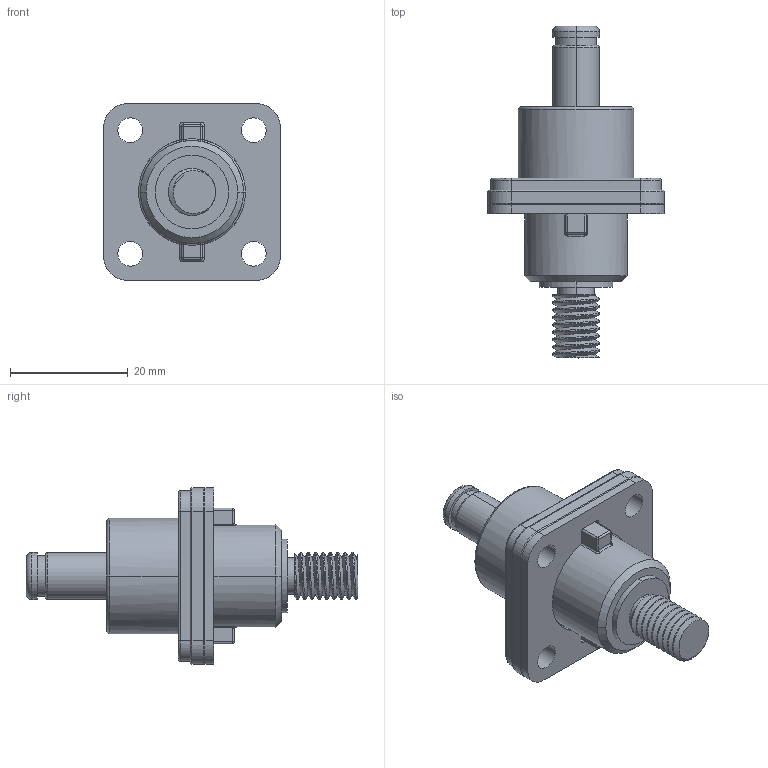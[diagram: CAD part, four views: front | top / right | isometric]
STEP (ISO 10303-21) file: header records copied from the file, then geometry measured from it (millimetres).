
FILE_DESCRIPTION (( 'STEP AP214' ), '1' );
FILE_NAME ('RL9080-10X-F1.STEP', '2017-01-12T01:23:43', ( '' ), ( '' ), 'SwSTEP 2.0', 'SolidWorks 2014', '' );
FILE_SCHEMA (( 'AUTOMOTIVE_DESIGN' ));
Length unit declared in the file: millimetre
Products named in the file (1): RL9080-10X-F1
Bounding box: 30 x 56.4 x 30 mm (x, y, z)
Volume: 10512.1 mm3; surface area: 6296 mm2
Topology: 1 solids, 1 shells, 363 faces, 881 edges, 501 vertices
Faces by surface type: cylinder 172, plane 81, torus 49, sphere 49, bspline 10, cone 2
Entity records: 12334 total; most frequent: CARTESIAN_POINT 3268, DIRECTION 1885, ORIENTED_EDGE 1678, EDGE_CURVE 839, AXIS2_PLACEMENT_3D 770, VERTEX_POINT 490, CIRCLE 416, EDGE_LOOP 383
